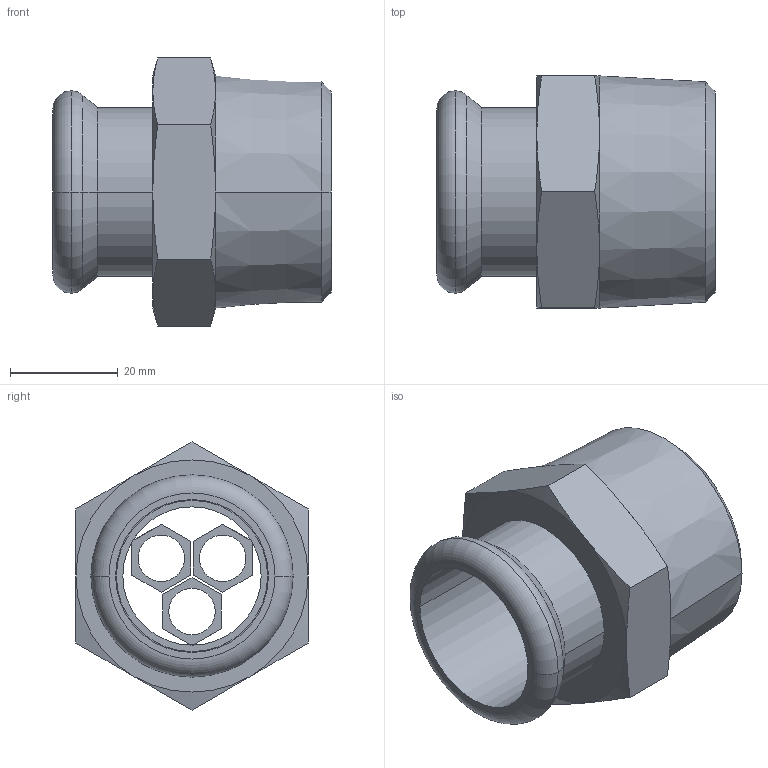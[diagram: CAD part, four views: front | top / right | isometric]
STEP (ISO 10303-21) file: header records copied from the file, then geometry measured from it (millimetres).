
FILE_DESCRIPTION(('OneSpaceDesigner STEP Export'),'2;1');
FILE_NAME('R2705 28xR1 1-4.stp','2010-06-09T10:49:09',(''),(''),'OneSpace Designer STEP processor for AP214 (Solid Model)','OneSpace Modeling 15.00A 14-Mar-2007 (C) CoCreate Software GmbH','');
FILE_SCHEMA(('AUTOMOTIVE_DESIGN { 1 0 10303 214 1 1 1 1 }'));
Length unit declared in the file: millimetre
Products named in the file (2): R2705_28xR1_1-4
Assembly tree (1 placements, depth 2):
  R2705_28xR1_1-4
    R2705_28xR1_1-4
Bounding box: 51.5 x 43 x 49.65 mm (x, y, z)
Volume: 25833.6 mm3; surface area: 14657 mm2
Topology: 1 solids, 1 shells, 85 faces, 201 edges, 126 vertices
Faces by surface type: plane 40, cone 20, cylinder 19, torus 6
Entity records: 2955 total; most frequent: CARTESIAN_POINT 1155, ORIENTED_EDGE 402, DIRECTION 297, EDGE_CURVE 201, VERTEX_POINT 126, EDGE_LOOP 101, AXIS2_PLACEMENT_3D 99, VECTOR 99
